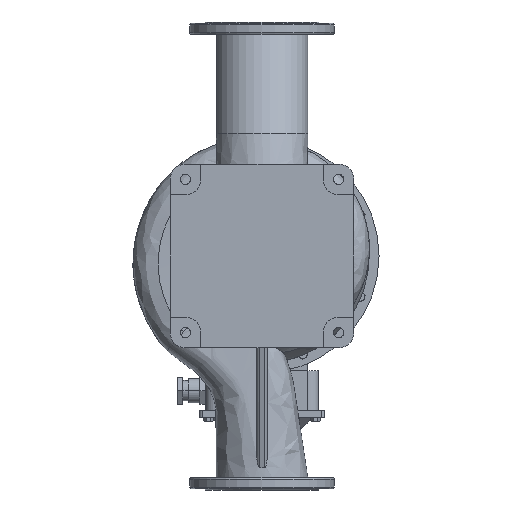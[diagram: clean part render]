
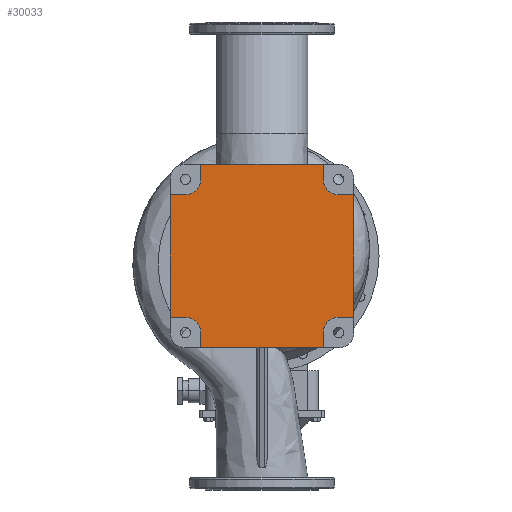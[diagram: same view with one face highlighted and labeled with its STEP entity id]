
A CAD part, front view. The second image highlights one B-rep face of the part: STEP entity #30033.
In plain terms, the highlighted planar face has unit normal (0, -1, 0).
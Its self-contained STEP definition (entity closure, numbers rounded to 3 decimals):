
#958 = CARTESIAN_POINT ( 'NONE',  ( -180., -265., -144. ) ) ;
#1078 = DIRECTION ( 'NONE',  ( 0., 0., -1. ) ) ;
#1168 = VERTEX_POINT ( 'NONE', #71483 ) ;
#4769 = ORIENTED_EDGE ( 'NONE', *, *, #73178, .T. ) ;
#4932 = CARTESIAN_POINT ( 'NONE',  ( 216., -265., 144. ) ) ;
#5031 = AXIS2_PLACEMENT_3D ( 'NONE', #26682, #25455, #50725 ) ;
#5443 = CARTESIAN_POINT ( 'NONE',  ( 144., -265., -180. ) ) ;
#5839 = EDGE_CURVE ( 'NONE', #31668, #47384, #19674, .T. ) ;
#5904 = VECTOR ( 'NONE', #11633, 1000. ) ;
#5971 = LINE ( 'NONE', #68323, #50586 ) ;
#6060 = ORIENTED_EDGE ( 'NONE', *, *, #44401, .T. ) ;
#6888 = DIRECTION ( 'NONE',  ( 0., 0., 1. ) ) ;
#7686 = EDGE_CURVE ( 'NONE', #17092, #57373, #61380, .T. ) ;
#8243 = DIRECTION ( 'NONE',  ( 0., 0., 1. ) ) ;
#9014 = AXIS2_PLACEMENT_3D ( 'NONE', #71667, #28051, #10082 ) ;
#9247 = EDGE_CURVE ( 'NONE', #71479, #1168, #68160, .T. ) ;
#10082 = DIRECTION ( 'NONE',  ( 1., 0., 0. ) ) ;
#11555 = CARTESIAN_POINT ( 'NONE',  ( -144., -265., -180. ) ) ;
#11617 = CARTESIAN_POINT ( 'NONE',  ( -216., -265., 144. ) ) ;
#11633 = DIRECTION ( 'NONE',  ( 1., 0., 0. ) ) ;
#12104 = ORIENTED_EDGE ( 'NONE', *, *, #33772, .T. ) ;
#12374 = VECTOR ( 'NONE', #22983, 1000. ) ;
#12990 = CARTESIAN_POINT ( 'NONE',  ( 144., -265., -180. ) ) ;
#13568 = LINE ( 'NONE', #20497, #21012 ) ;
#13602 = AXIS2_PLACEMENT_3D ( 'NONE', #58282, #52152, #45630 ) ;
#14219 = ORIENTED_EDGE ( 'NONE', *, *, #5839, .T. ) ;
#15717 = VECTOR ( 'NONE', #39627, 1000. ) ;
#16055 = EDGE_CURVE ( 'NONE', #64825, #71479, #50666, .T. ) ;
#16457 = ORIENTED_EDGE ( 'NONE', *, *, #16055, .T. ) ;
#17092 = VERTEX_POINT ( 'NONE', #52513 ) ;
#18685 = CARTESIAN_POINT ( 'NONE',  ( -144., -265., 216. ) ) ;
#18716 = LINE ( 'NONE', #12990, #60694 ) ;
#19364 = CIRCLE ( 'NONE', #5031, 36. ) ;
#19552 = CARTESIAN_POINT ( 'NONE',  ( 144., -265., 216. ) ) ;
#19581 = CARTESIAN_POINT ( 'NONE',  ( 216., -265., -144. ) ) ;
#19674 = LINE ( 'NONE', #64098, #51476 ) ;
#19891 = EDGE_CURVE ( 'NONE', #48547, #57007, #18716, .T. ) ;
#20497 = CARTESIAN_POINT ( 'NONE',  ( 180., -265., 144. ) ) ;
#20579 = DIRECTION ( 'NONE',  ( 0., 1., 0. ) ) ;
#21012 = VECTOR ( 'NONE', #68600, 1000. ) ;
#21133 = CARTESIAN_POINT ( 'NONE',  ( -180., -265., -144. ) ) ;
#21344 = AXIS2_PLACEMENT_3D ( 'NONE', #76392, #43824, #75995 ) ;
#22192 = LINE ( 'NONE', #78398, #12374 ) ;
#22983 = DIRECTION ( 'NONE',  ( 0., 0., -1. ) ) ;
#25455 = DIRECTION ( 'NONE',  ( 0., 1., 0. ) ) ;
#26682 = CARTESIAN_POINT ( 'NONE',  ( 180., -265., 180. ) ) ;
#26810 = VERTEX_POINT ( 'NONE', #43424 ) ;
#27161 = ORIENTED_EDGE ( 'NONE', *, *, #77418, .T. ) ;
#28051 = DIRECTION ( 'NONE',  ( 0., 1., 0. ) ) ;
#28736 = CIRCLE ( 'NONE', #74249, 36. ) ;
#29825 = DIRECTION ( 'NONE',  ( 0., 0., 1. ) ) ;
#30033 = ADVANCED_FACE ( 'NONE', ( #65927 ), #59051, .F. ) ;
#30802 = EDGE_CURVE ( 'NONE', #47384, #42342, #49378, .T. ) ;
#31490 = DIRECTION ( 'NONE',  ( -1., 0., 0. ) ) ;
#31528 = ORIENTED_EDGE ( 'NONE', *, *, #38628, .T. ) ;
#31668 = VERTEX_POINT ( 'NONE', #53625 ) ;
#33518 = CARTESIAN_POINT ( 'NONE',  ( 144., -265., -216. ) ) ;
#33772 = EDGE_CURVE ( 'NONE', #49372, #26810, #28736, .T. ) ;
#33853 = VECTOR ( 'NONE', #31490, 1000. ) ;
#34085 = EDGE_CURVE ( 'NONE', #57373, #67688, #74877, .T. ) ;
#34680 = VERTEX_POINT ( 'NONE', #58923 ) ;
#34940 = ORIENTED_EDGE ( 'NONE', *, *, #39365, .T. ) ;
#35334 = ORIENTED_EDGE ( 'NONE', *, *, #30802, .T. ) ;
#36091 = LINE ( 'NONE', #60968, #56103 ) ;
#36911 = CARTESIAN_POINT ( 'NONE',  ( 180., -265., -144. ) ) ;
#37879 = ORIENTED_EDGE ( 'NONE', *, *, #19891, .T. ) ;
#38628 = EDGE_CURVE ( 'NONE', #57415, #48547, #64890, .T. ) ;
#38923 = DIRECTION ( 'NONE',  ( 0., 0., 1. ) ) ;
#39365 = EDGE_CURVE ( 'NONE', #67688, #34680, #13568, .T. ) ;
#39627 = DIRECTION ( 'NONE',  ( 1., 0., 0. ) ) ;
#40529 = CARTESIAN_POINT ( 'NONE',  ( 216., -265., 144. ) ) ;
#42342 = VERTEX_POINT ( 'NONE', #18685 ) ;
#43028 = CARTESIAN_POINT ( 'NONE',  ( -180., -265., 180. ) ) ;
#43424 = CARTESIAN_POINT ( 'NONE',  ( -180., -265., 144. ) ) ;
#43824 = DIRECTION ( 'NONE',  ( 0., 1., 0. ) ) ;
#44082 = VECTOR ( 'NONE', #44150, 1000. ) ;
#44150 = DIRECTION ( 'NONE',  ( 1., 0., 0. ) ) ;
#44401 = EDGE_CURVE ( 'NONE', #1168, #57415, #61300, .T. ) ;
#44493 = CARTESIAN_POINT ( 'NONE',  ( -144., -265., 216. ) ) ;
#45630 = DIRECTION ( 'NONE',  ( 0., 0., 1. ) ) ;
#47384 = VERTEX_POINT ( 'NONE', #19552 ) ;
#48547 = VERTEX_POINT ( 'NONE', #69689 ) ;
#48734 = CIRCLE ( 'NONE', #13602, 36. ) ;
#49215 = EDGE_LOOP ( 'NONE', ( #79321, #6060, #31528, #37879, #4769, #67225, #57217, #34940, #68821, #14219, #35334, #27161, #12104, #54184, #73697, #16457 ) ) ;
#49372 = VERTEX_POINT ( 'NONE', #60049 ) ;
#49378 = LINE ( 'NONE', #44493, #33853 ) ;
#50534 = CARTESIAN_POINT ( 'NONE',  ( -144., -265., -216. ) ) ;
#50586 = VECTOR ( 'NONE', #1078, 1000. ) ;
#50666 = LINE ( 'NONE', #958, #44082 ) ;
#50725 = DIRECTION ( 'NONE',  ( 0., 0., 1. ) ) ;
#51476 = VECTOR ( 'NONE', #8243, 1000. ) ;
#52152 = DIRECTION ( 'NONE',  ( 0., 1., 0. ) ) ;
#52513 = CARTESIAN_POINT ( 'NONE',  ( 180., -265., -144. ) ) ;
#53625 = CARTESIAN_POINT ( 'NONE',  ( 144., -265., 180. ) ) ;
#54184 = ORIENTED_EDGE ( 'NONE', *, *, #68718, .T. ) ;
#55519 = VERTEX_POINT ( 'NONE', #11617 ) ;
#55611 = EDGE_CURVE ( 'NONE', #34680, #31668, #19364, .T. ) ;
#56103 = VECTOR ( 'NONE', #79698, 1000. ) ;
#57007 = VERTEX_POINT ( 'NONE', #5443 ) ;
#57217 = ORIENTED_EDGE ( 'NONE', *, *, #34085, .T. ) ;
#57373 = VERTEX_POINT ( 'NONE', #19581 ) ;
#57415 = VERTEX_POINT ( 'NONE', #50534 ) ;
#58282 = CARTESIAN_POINT ( 'NONE',  ( 180., -265., -180. ) ) ;
#58923 = CARTESIAN_POINT ( 'NONE',  ( 180., -265., 144. ) ) ;
#59051 = PLANE ( 'NONE',  #9014 ) ;
#60049 = CARTESIAN_POINT ( 'NONE',  ( -144., -265., 180. ) ) ;
#60694 = VECTOR ( 'NONE', #6888, 1000. ) ;
#60968 = CARTESIAN_POINT ( 'NONE',  ( -180., -265., 144. ) ) ;
#61300 = LINE ( 'NONE', #11555, #73185 ) ;
#61380 = LINE ( 'NONE', #36911, #5904 ) ;
#64098 = CARTESIAN_POINT ( 'NONE',  ( 144., -265., 180. ) ) ;
#64825 = VERTEX_POINT ( 'NONE', #69946 ) ;
#64890 = LINE ( 'NONE', #33518, #15717 ) ;
#65927 = FACE_OUTER_BOUND ( 'NONE', #49215, .T. ) ;
#67225 = ORIENTED_EDGE ( 'NONE', *, *, #7686, .T. ) ;
#67688 = VERTEX_POINT ( 'NONE', #40529 ) ;
#68160 = CIRCLE ( 'NONE', #21344, 36. ) ;
#68323 = CARTESIAN_POINT ( 'NONE',  ( -144., -265., 180. ) ) ;
#68600 = DIRECTION ( 'NONE',  ( -1., 0., 0. ) ) ;
#68718 = EDGE_CURVE ( 'NONE', #26810, #55519, #36091, .T. ) ;
#68821 = ORIENTED_EDGE ( 'NONE', *, *, #55611, .T. ) ;
#69689 = CARTESIAN_POINT ( 'NONE',  ( 144., -265., -216. ) ) ;
#69946 = CARTESIAN_POINT ( 'NONE',  ( -216., -265., -144. ) ) ;
#70396 = VECTOR ( 'NONE', #29825, 1000. ) ;
#71479 = VERTEX_POINT ( 'NONE', #21133 ) ;
#71483 = CARTESIAN_POINT ( 'NONE',  ( -144., -265., -180. ) ) ;
#71667 = CARTESIAN_POINT ( 'NONE',  ( -180., -265., -180. ) ) ;
#73110 = DIRECTION ( 'NONE',  ( 0., 0., -1. ) ) ;
#73178 = EDGE_CURVE ( 'NONE', #57007, #17092, #48734, .T. ) ;
#73185 = VECTOR ( 'NONE', #73110, 1000. ) ;
#73697 = ORIENTED_EDGE ( 'NONE', *, *, #74258, .T. ) ;
#74249 = AXIS2_PLACEMENT_3D ( 'NONE', #43028, #20579, #38923 ) ;
#74258 = EDGE_CURVE ( 'NONE', #55519, #64825, #22192, .T. ) ;
#74877 = LINE ( 'NONE', #4932, #70396 ) ;
#75995 = DIRECTION ( 'NONE',  ( 0., 0., 1. ) ) ;
#76392 = CARTESIAN_POINT ( 'NONE',  ( -180., -265., -180. ) ) ;
#77418 = EDGE_CURVE ( 'NONE', #42342, #49372, #5971, .T. ) ;
#78398 = CARTESIAN_POINT ( 'NONE',  ( -216., -265., -144. ) ) ;
#79321 = ORIENTED_EDGE ( 'NONE', *, *, #9247, .T. ) ;
#79698 = DIRECTION ( 'NONE',  ( -1., 0., 0. ) ) ;
